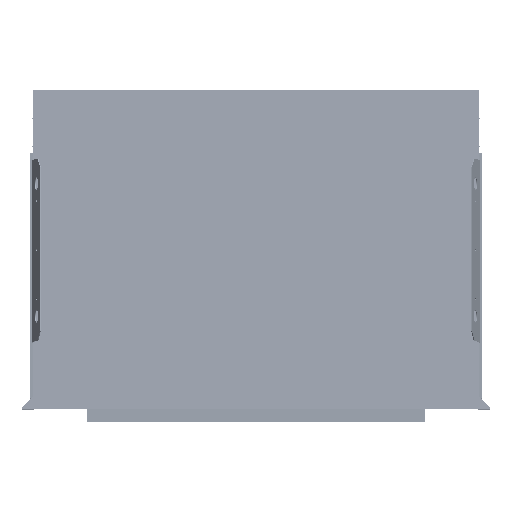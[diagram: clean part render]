
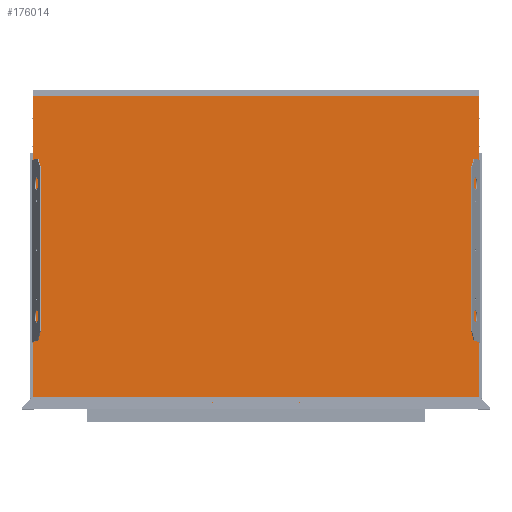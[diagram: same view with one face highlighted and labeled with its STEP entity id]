
A CAD part, top view. The second image highlights one B-rep face of the part: STEP entity #176014.
In plain terms, the highlighted planar face has unit normal (0, 0.052, 0.999) as drawn and (0, 0, 1) by its records, which use the part's own axes.
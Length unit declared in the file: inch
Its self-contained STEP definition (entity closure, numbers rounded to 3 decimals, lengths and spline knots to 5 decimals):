
#1944 = EDGE_CURVE ( 'NONE', #19734, #154462, #53216, .T. ) ;
#1975 = DIRECTION ( 'NONE',  ( 0., -1., 0. ) ) ;
#7572 = DIRECTION ( 'NONE',  ( 0., -1., 0. ) ) ;
#8315 = VERTEX_POINT ( 'NONE', #248928 ) ;
#13681 = AXIS2_PLACEMENT_3D ( 'NONE', #212176, #253479, #58519 ) ;
#16057 = VERTEX_POINT ( 'NONE', #146626 ) ;
#19384 = DIRECTION ( 'NONE',  ( 1., 0., 0. ) ) ;
#19734 = VERTEX_POINT ( 'NONE', #38424 ) ;
#29445 = CARTESIAN_POINT ( 'NONE',  ( 29.2505, 0.99371, 0.06 ) ) ;
#30256 = EDGE_LOOP ( 'NONE', ( #177424 ) ) ;
#32255 = VERTEX_POINT ( 'NONE', #29445 ) ;
#35219 = ORIENTED_EDGE ( 'NONE', *, *, #35407, .T. ) ;
#35407 = EDGE_CURVE ( 'NONE', #16057, #19734, #219102, .T. ) ;
#37796 = CARTESIAN_POINT ( 'NONE',  ( 1.2505, 0.99371, 0.06 ) ) ;
#38424 = CARTESIAN_POINT ( 'NONE',  ( 0.015, 50.80478, 0.06 ) ) ;
#40134 = LINE ( 'NONE', #106997, #48130 ) ;
#42173 = VECTOR ( 'NONE', #144197, 39.37008 ) ;
#48130 = VECTOR ( 'NONE', #131140, 39.37008 ) ;
#50451 = VERTEX_POINT ( 'NONE', #229085 ) ;
#53216 = LINE ( 'NONE', #117278, #190379 ) ;
#56569 = VECTOR ( 'NONE', #1975, 39.37008 ) ;
#58433 = DIRECTION ( 'NONE',  ( 0., 0., 1. ) ) ;
#58519 = DIRECTION ( 'NONE',  ( 1., 0., 0. ) ) ;
#61395 = VECTOR ( 'NONE', #116305, 39.37008 ) ;
#62005 = AXIS2_PLACEMENT_3D ( 'NONE', #276988, #126275, #83517 ) ;
#62132 = FACE_BOUND ( 'NONE', #134574, .T. ) ;
#63484 = EDGE_CURVE ( 'NONE', #174269, #174269, #139486, .T. ) ;
#66115 = CARTESIAN_POINT ( 'NONE',  ( 0.015, 0.2, 0.06 ) ) ;
#76218 = EDGE_CURVE ( 'NONE', #8315, #8315, #127326, .T. ) ;
#76468 = DIRECTION ( 'NONE',  ( 1., 0., 0. ) ) ;
#76532 = DIRECTION ( 'NONE',  ( 0., 0., 1. ) ) ;
#82088 = PLANE ( 'NONE',  #237621 ) ;
#83517 = DIRECTION ( 'NONE',  ( 1., 0., 0. ) ) ;
#84812 = EDGE_CURVE ( 'NONE', #178348, #50451, #40134, .T. ) ;
#87453 = LINE ( 'NONE', #197057, #56569 ) ;
#89974 = ORIENTED_EDGE ( 'NONE', *, *, #1944, .T. ) ;
#90306 = CARTESIAN_POINT ( 'NONE',  ( 72.36, 0.2, 0.06 ) ) ;
#97733 = VECTOR ( 'NONE', #267367, 39.37008 ) ;
#98204 = VERTEX_POINT ( 'NONE', #100924 ) ;
#100924 = CARTESIAN_POINT ( 'NONE',  ( 72.145, 0.2, 0.06 ) ) ;
#106325 = DIRECTION ( 'NONE',  ( 1., 0., 0. ) ) ;
#106997 = CARTESIAN_POINT ( 'NONE',  ( 0.215, 0.01581, 0.06 ) ) ;
#111540 = EDGE_LOOP ( 'NONE', ( #130579, #261331, #242246, #35219, #89974, #257480, #243383, #239620 ) ) ;
#116305 = DIRECTION ( 'NONE',  ( 0., 1., 0. ) ) ;
#116691 = CARTESIAN_POINT ( 'NONE',  ( 0., 0.2, 0.06 ) ) ;
#117278 = CARTESIAN_POINT ( 'NONE',  ( 0.015, 50.81902, 0.06 ) ) ;
#119140 = LINE ( 'NONE', #248624, #61395 ) ;
#120105 = CARTESIAN_POINT ( 'NONE',  ( 72.345, 0.2, 0.06 ) ) ;
#122060 = DIRECTION ( 'NONE',  ( 1., 0., 0. ) ) ;
#122980 = VERTEX_POINT ( 'NONE', #191225 ) ;
#124805 = CARTESIAN_POINT ( 'NONE',  ( 29.18, 0.99371, 0.06 ) ) ;
#126275 = DIRECTION ( 'NONE',  ( 0., 0., 1. ) ) ;
#127326 = CIRCLE ( 'NONE', #13681, 0.0705 ) ;
#127632 = CARTESIAN_POINT ( 'NONE',  ( 0., 0., 0.06 ) ) ;
#127690 = DIRECTION ( 'NONE',  ( 0., 0., 1. ) ) ;
#128999 = FACE_OUTER_BOUND ( 'NONE', #111540, .T. ) ;
#130579 = ORIENTED_EDGE ( 'NONE', *, *, #227642, .F. ) ;
#131035 = EDGE_CURVE ( 'NONE', #142318, #154462, #224824, .T. ) ;
#131140 = DIRECTION ( 'NONE',  ( 1., 0., 0. ) ) ;
#133054 = DIRECTION ( 'NONE',  ( -1., 0., 0. ) ) ;
#133076 = CARTESIAN_POINT ( 'NONE',  ( 15.2505, 0.99371, 0.06 ) ) ;
#133183 = AXIS2_PLACEMENT_3D ( 'NONE', #230268, #76532, #122060 ) ;
#134574 = EDGE_LOOP ( 'NONE', ( #269432 ) ) ;
#135498 = AXIS2_PLACEMENT_3D ( 'NONE', #147608, #127690, #106325 ) ;
#139486 = CIRCLE ( 'NONE', #189483, 0.0705 ) ;
#140099 = VERTEX_POINT ( 'NONE', #182817 ) ;
#142318 = VERTEX_POINT ( 'NONE', #276021 ) ;
#144197 = DIRECTION ( 'NONE',  ( 0., 1., 0. ) ) ;
#145231 = DIRECTION ( 'NONE',  ( 1., 0., 0. ) ) ;
#146626 = CARTESIAN_POINT ( 'NONE',  ( 72.345, 50.80478, 0.06 ) ) ;
#147608 = CARTESIAN_POINT ( 'NONE',  ( 57.18, 0.99371, 0.06 ) ) ;
#149482 = EDGE_CURVE ( 'NONE', #232018, #16057, #249584, .T. ) ;
#154462 = VERTEX_POINT ( 'NONE', #66115 ) ;
#165741 = ORIENTED_EDGE ( 'NONE', *, *, #236876, .F. ) ;
#168866 = FACE_BOUND ( 'NONE', #274701, .T. ) ;
#171561 = VERTEX_POINT ( 'NONE', #133076 ) ;
#174008 = CIRCLE ( 'NONE', #133183, 0.0705 ) ;
#174269 = VERTEX_POINT ( 'NONE', #37796 ) ;
#176014 = ADVANCED_FACE ( 'NONE', ( #62132, #168866, #239968, #276947, #193067, #237209, #128999 ), #82088, .T. ) ;
#176401 = CARTESIAN_POINT ( 'NONE',  ( 72.345, 50.80478, 0.06 ) ) ;
#177424 = ORIENTED_EDGE ( 'NONE', *, *, #206410, .F. ) ;
#178348 = VERTEX_POINT ( 'NONE', #202828 ) ;
#182487 = ORIENTED_EDGE ( 'NONE', *, *, #224130, .F. ) ;
#182817 = CARTESIAN_POINT ( 'NONE',  ( 43.2505, 0.99371, 0.06 ) ) ;
#184757 = CIRCLE ( 'NONE', #62005, 0.0705 ) ;
#189483 = AXIS2_PLACEMENT_3D ( 'NONE', #253398, #58433, #145231 ) ;
#190240 = DIRECTION ( 'NONE',  ( 0., 0., 1. ) ) ;
#190379 = VECTOR ( 'NONE', #7572, 39.37008 ) ;
#191225 = CARTESIAN_POINT ( 'NONE',  ( 57.2505, 0.99371, 0.06 ) ) ;
#193067 = FACE_BOUND ( 'NONE', #253937, .T. ) ;
#197057 = CARTESIAN_POINT ( 'NONE',  ( 72.145, 0., 0.06 ) ) ;
#197107 = LINE ( 'NONE', #90306, #278362 ) ;
#200424 = ORIENTED_EDGE ( 'NONE', *, *, #76218, .F. ) ;
#202641 = EDGE_LOOP ( 'NONE', ( #200424 ) ) ;
#202828 = CARTESIAN_POINT ( 'NONE',  ( 0.215, 0.01581, 0.06 ) ) ;
#206410 = EDGE_CURVE ( 'NONE', #140099, #140099, #174008, .T. ) ;
#212176 = CARTESIAN_POINT ( 'NONE',  ( 71.18, 0.99371, 0.06 ) ) ;
#214407 = DIRECTION ( 'NONE',  ( 0., 0., 1. ) ) ;
#216565 = EDGE_CURVE ( 'NONE', #178348, #142318, #119140, .T. ) ;
#219102 = LINE ( 'NONE', #176401, #97733 ) ;
#224130 = EDGE_CURVE ( 'NONE', #32255, #32255, #251229, .T. ) ;
#224824 = LINE ( 'NONE', #116691, #229000 ) ;
#226365 = CIRCLE ( 'NONE', #135498, 0.0705 ) ;
#227642 = EDGE_CURVE ( 'NONE', #98204, #50451, #87453, .T. ) ;
#229000 = VECTOR ( 'NONE', #250378, 39.37008 ) ;
#229085 = CARTESIAN_POINT ( 'NONE',  ( 72.145, 0.01581, 0.06 ) ) ;
#229539 = ORIENTED_EDGE ( 'NONE', *, *, #230501, .F. ) ;
#230268 = CARTESIAN_POINT ( 'NONE',  ( 43.18, 0.99371, 0.06 ) ) ;
#230501 = EDGE_CURVE ( 'NONE', #171561, #171561, #184757, .T. ) ;
#232018 = VERTEX_POINT ( 'NONE', #256989 ) ;
#236876 = EDGE_CURVE ( 'NONE', #122980, #122980, #226365, .T. ) ;
#237209 = FACE_BOUND ( 'NONE', #202641, .T. ) ;
#237621 = AXIS2_PLACEMENT_3D ( 'NONE', #127632, #214407, #19384 ) ;
#239620 = ORIENTED_EDGE ( 'NONE', *, *, #84812, .T. ) ;
#239968 = FACE_BOUND ( 'NONE', #245481, .T. ) ;
#242246 = ORIENTED_EDGE ( 'NONE', *, *, #149482, .T. ) ;
#243383 = ORIENTED_EDGE ( 'NONE', *, *, #216565, .F. ) ;
#245481 = EDGE_LOOP ( 'NONE', ( #182487 ) ) ;
#248624 = CARTESIAN_POINT ( 'NONE',  ( 0.215, 0., 0.06 ) ) ;
#248825 = EDGE_CURVE ( 'NONE', #232018, #98204, #197107, .T. ) ;
#248928 = CARTESIAN_POINT ( 'NONE',  ( 71.2505, 0.99371, 0.06 ) ) ;
#249584 = LINE ( 'NONE', #120105, #42173 ) ;
#250378 = DIRECTION ( 'NONE',  ( -1., 0., 0. ) ) ;
#251229 = CIRCLE ( 'NONE', #273866, 0.0705 ) ;
#253398 = CARTESIAN_POINT ( 'NONE',  ( 1.18, 0.99371, 0.06 ) ) ;
#253479 = DIRECTION ( 'NONE',  ( 0., 0., 1. ) ) ;
#253937 = EDGE_LOOP ( 'NONE', ( #165741 ) ) ;
#256989 = CARTESIAN_POINT ( 'NONE',  ( 72.345, 0.2, 0.06 ) ) ;
#257480 = ORIENTED_EDGE ( 'NONE', *, *, #131035, .F. ) ;
#261331 = ORIENTED_EDGE ( 'NONE', *, *, #248825, .F. ) ;
#267367 = DIRECTION ( 'NONE',  ( -1., 0., 0. ) ) ;
#269432 = ORIENTED_EDGE ( 'NONE', *, *, #63484, .F. ) ;
#273866 = AXIS2_PLACEMENT_3D ( 'NONE', #124805, #190240, #76468 ) ;
#274701 = EDGE_LOOP ( 'NONE', ( #229539 ) ) ;
#276021 = CARTESIAN_POINT ( 'NONE',  ( 0.215, 0.2, 0.06 ) ) ;
#276947 = FACE_BOUND ( 'NONE', #30256, .T. ) ;
#276988 = CARTESIAN_POINT ( 'NONE',  ( 15.18, 0.99371, 0.06 ) ) ;
#278362 = VECTOR ( 'NONE', #133054, 39.37008 ) ;
